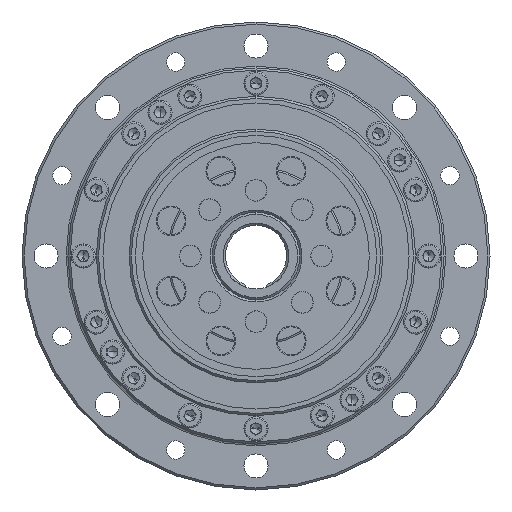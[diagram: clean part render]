
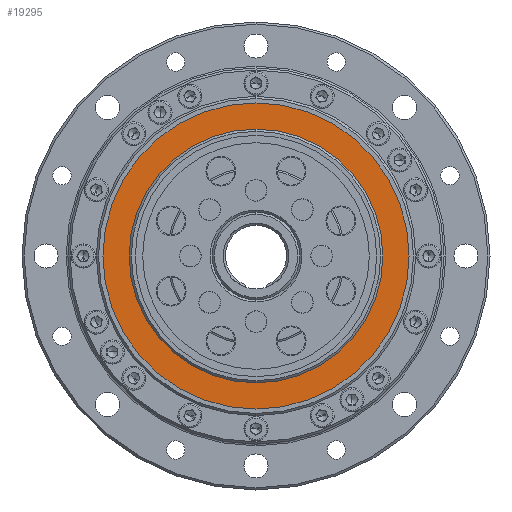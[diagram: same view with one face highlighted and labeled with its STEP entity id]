
A CAD part, left-side view. The second image highlights one B-rep face of the part: STEP entity #19295.
In plain terms, the highlighted planar face has unit normal (-1, 0, 0).
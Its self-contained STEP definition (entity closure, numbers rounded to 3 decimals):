
#104 = DIRECTION ( 'NONE',  ( 0., 0., 1. ) ) ;
#500 = CARTESIAN_POINT ( 'NONE',  ( 3.002, 0., 0. ) ) ;
#613 = EDGE_CURVE ( 'NONE', #7822, #30396, #10337, .T. ) ;
#1916 = PLANE ( 'NONE',  #16296 ) ;
#2882 = ORIENTED_EDGE ( 'NONE', *, *, #9166, .T. ) ;
#3001 = DIRECTION ( 'NONE',  ( 0., 0., 1. ) ) ;
#3874 = AXIS2_PLACEMENT_3D ( 'NONE', #500, #18013, #3001 ) ;
#3938 = CARTESIAN_POINT ( 'NONE',  ( 3.002, 0., -35. ) ) ;
#4764 = DIRECTION ( 'NONE',  ( -1., 0., 0. ) ) ;
#4898 = CARTESIAN_POINT ( 'NONE',  ( 3.002, 0., 35. ) ) ;
#5165 = EDGE_CURVE ( 'NONE', #30396, #7822, #5816, .T. ) ;
#5395 = FACE_BOUND ( 'NONE', #23607, .T. ) ;
#5816 = CIRCLE ( 'NONE', #3874, 29. ) ;
#6954 = DIRECTION ( 'NONE',  ( 0., 0., -1. ) ) ;
#7822 = VERTEX_POINT ( 'NONE', #9515 ) ;
#8103 = ORIENTED_EDGE ( 'NONE', *, *, #5165, .F. ) ;
#9166 = EDGE_CURVE ( 'NONE', #21812, #31505, #18916, .T. ) ;
#9515 = CARTESIAN_POINT ( 'NONE',  ( 3.002, 0., 29. ) ) ;
#10337 = CIRCLE ( 'NONE', #14467, 29. ) ;
#14375 = DIRECTION ( 'NONE',  ( -1., 0., 0. ) ) ;
#14467 = AXIS2_PLACEMENT_3D ( 'NONE', #18107, #4764, #22510 ) ;
#15082 = DIRECTION ( 'NONE',  ( -1., 0., 0. ) ) ;
#15866 = AXIS2_PLACEMENT_3D ( 'NONE', #30090, #15082, #104 ) ;
#16296 = AXIS2_PLACEMENT_3D ( 'NONE', #19421, #21970, #6954 ) ;
#16606 = ORIENTED_EDGE ( 'NONE', *, *, #613, .F. ) ;
#16712 = CIRCLE ( 'NONE', #15866, 35. ) ;
#18013 = DIRECTION ( 'NONE',  ( -1., 0., 0. ) ) ;
#18107 = CARTESIAN_POINT ( 'NONE',  ( 3.002, 0., 0. ) ) ;
#18814 = EDGE_CURVE ( 'NONE', #31505, #21812, #16712, .T. ) ;
#18916 = CIRCLE ( 'NONE', #20771, 35. ) ;
#19295 = ADVANCED_FACE ( 'NONE', ( #5395, #20277 ), #1916, .F. ) ;
#19421 = CARTESIAN_POINT ( 'NONE',  ( 3.002, 35., 0. ) ) ;
#20277 = FACE_OUTER_BOUND ( 'NONE', #28715, .T. ) ;
#20771 = AXIS2_PLACEMENT_3D ( 'NONE', #29410, #14375, #31920 ) ;
#21812 = VERTEX_POINT ( 'NONE', #4898 ) ;
#21970 = DIRECTION ( 'NONE',  ( 1., 0., 0. ) ) ;
#22510 = DIRECTION ( 'NONE',  ( 0., 0., 1. ) ) ;
#23607 = EDGE_LOOP ( 'NONE', ( #16606, #8103 ) ) ;
#24237 = ORIENTED_EDGE ( 'NONE', *, *, #18814, .T. ) ;
#28715 = EDGE_LOOP ( 'NONE', ( #2882, #24237 ) ) ;
#29410 = CARTESIAN_POINT ( 'NONE',  ( 3.002, 0., 0. ) ) ;
#30090 = CARTESIAN_POINT ( 'NONE',  ( 3.002, 0., 0. ) ) ;
#30396 = VERTEX_POINT ( 'NONE', #31410 ) ;
#31410 = CARTESIAN_POINT ( 'NONE',  ( 3.002, 0., -29. ) ) ;
#31505 = VERTEX_POINT ( 'NONE', #3938 ) ;
#31920 = DIRECTION ( 'NONE',  ( 0., 0., 1. ) ) ;
